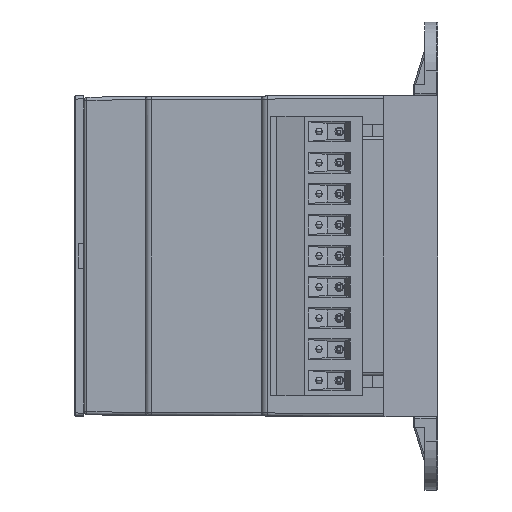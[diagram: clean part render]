
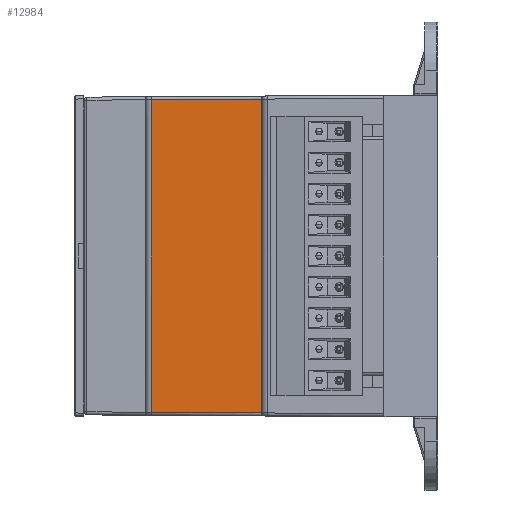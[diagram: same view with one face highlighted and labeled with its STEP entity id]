
A CAD part, left-side view. The second image highlights one B-rep face of the part: STEP entity #12984.
In plain terms, the highlighted planar face has unit normal (-1, 0.013, 0) as drawn and (-1, 0, -0.013) by its records, which use the part's own axes.
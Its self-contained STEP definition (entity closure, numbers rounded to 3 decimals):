
#3290 = VERTEX_POINT ( 'NONE', #57629 ) ;
#6389 = DIRECTION ( 'NONE',  ( 0.013, 0., -1. ) ) ;
#9692 = CARTESIAN_POINT ( 'NONE',  ( -30., 26.25, -20. ) ) ;
#10387 = VERTEX_POINT ( 'NONE', #47460 ) ;
#11067 = VERTEX_POINT ( 'NONE', #24022 ) ;
#12984 = ADVANCED_FACE ( 'NONE', ( #32140 ), #35970, .F. ) ;
#13364 = DIRECTION ( 'NONE',  ( 0., -1., 0. ) ) ;
#15035 = VECTOR ( 'NONE', #56234, 1000. ) ;
#15287 = LINE ( 'NONE', #29909, #60722 ) ;
#23528 = VERTEX_POINT ( 'NONE', #35814 ) ;
#24020 = CARTESIAN_POINT ( 'NONE',  ( -29.763, 26.25, -38.013 ) ) ;
#24022 = CARTESIAN_POINT ( 'NONE',  ( -30., 25.628, -20. ) ) ;
#26039 = EDGE_CURVE ( 'NONE', #11067, #23528, #60463, .T. ) ;
#29909 = CARTESIAN_POINT ( 'NONE',  ( -29.759, -25.515, -38.33 ) ) ;
#30149 = DIRECTION ( 'NONE',  ( -0.013, -0.006, 1. ) ) ;
#30641 = ORIENTED_EDGE ( 'NONE', *, *, #31511, .T. ) ;
#31511 = EDGE_CURVE ( 'NONE', #3290, #10387, #15287, .T. ) ;
#31575 = LINE ( 'NONE', #72688, #75117 ) ;
#32140 = FACE_OUTER_BOUND ( 'NONE', #49772, .T. ) ;
#35814 = CARTESIAN_POINT ( 'NONE',  ( -29.763, 25.517, -38.013 ) ) ;
#35970 = PLANE ( 'NONE',  #53744 ) ;
#38993 = ORIENTED_EDGE ( 'NONE', *, *, #73003, .T. ) ;
#41927 = DIRECTION ( 'NONE',  ( 1., 0., 0.013 ) ) ;
#45244 = DIRECTION ( 'NONE',  ( 0., -1., 0. ) ) ;
#47395 = ORIENTED_EDGE ( 'NONE', *, *, #26039, .T. ) ;
#47460 = CARTESIAN_POINT ( 'NONE',  ( -30., -25.628, -20. ) ) ;
#49772 = EDGE_LOOP ( 'NONE', ( #58492, #47395, #38993, #30641 ) ) ;
#53744 = AXIS2_PLACEMENT_3D ( 'NONE', #24020, #41927, #6389 ) ;
#54369 = VECTOR ( 'NONE', #45244, 1000. ) ;
#56234 = DIRECTION ( 'NONE',  ( 0.013, -0.006, -1. ) ) ;
#57629 = CARTESIAN_POINT ( 'NONE',  ( -29.763, -25.517, -38.013 ) ) ;
#58492 = ORIENTED_EDGE ( 'NONE', *, *, #68244, .F. ) ;
#60463 = LINE ( 'NONE', #74083, #15035 ) ;
#60722 = VECTOR ( 'NONE', #30149, 1000. ) ;
#68244 = EDGE_CURVE ( 'NONE', #11067, #10387, #71965, .T. ) ;
#71965 = LINE ( 'NONE', #9692, #54369 ) ;
#72688 = CARTESIAN_POINT ( 'NONE',  ( -29.763, 26.25, -38.013 ) ) ;
#73003 = EDGE_CURVE ( 'NONE', #23528, #3290, #31575, .T. ) ;
#74083 = CARTESIAN_POINT ( 'NONE',  ( -29.763, 25.517, -38.009 ) ) ;
#75117 = VECTOR ( 'NONE', #13364, 1000. ) ;
